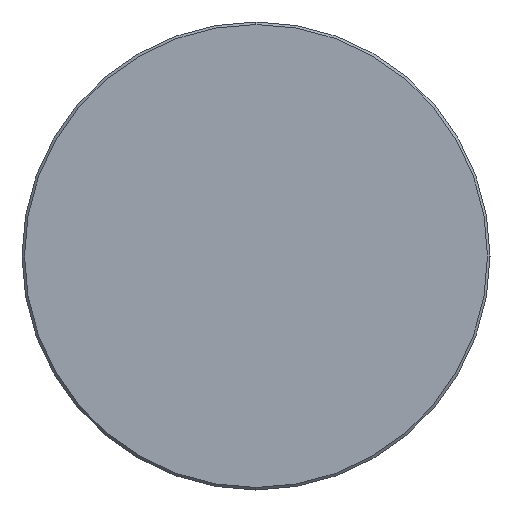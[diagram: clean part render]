
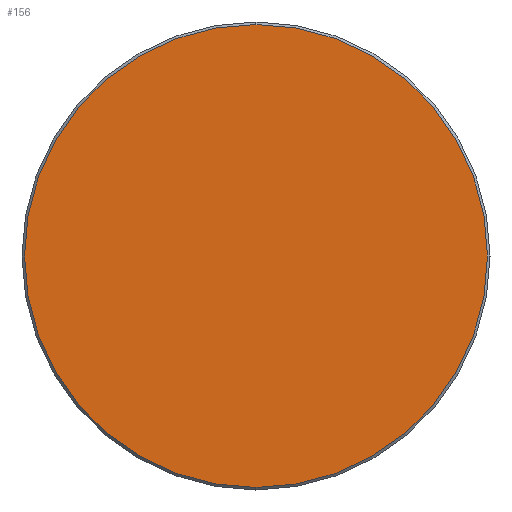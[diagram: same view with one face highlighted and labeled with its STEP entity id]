
A CAD part, left-side view. The second image highlights one B-rep face of the part: STEP entity #156.
In plain terms, the highlighted planar face has unit normal (-1, 0, 0).
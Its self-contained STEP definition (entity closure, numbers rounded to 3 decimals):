
#40 = PLANE ( 'NONE',  #661 ) ;
#51 = DIRECTION ( 'NONE',  ( 0., 0., -1. ) ) ;
#62 = AXIS2_PLACEMENT_3D ( 'NONE', #236, #868, #242 ) ;
#105 = CIRCLE ( 'NONE', #62, 27.7 ) ;
#119 = DIRECTION ( 'NONE',  ( 1., 0., 0. ) ) ;
#156 = ADVANCED_FACE ( 'NONE', ( #784 ), #40, .F. ) ;
#215 = EDGE_LOOP ( 'NONE', ( #953, #710 ) ) ;
#236 = CARTESIAN_POINT ( 'NONE',  ( 0., 0., 0. ) ) ;
#242 = DIRECTION ( 'NONE',  ( 0., 0., 1. ) ) ;
#342 = VERTEX_POINT ( 'NONE', #1009 ) ;
#436 = EDGE_CURVE ( 'NONE', #342, #641, #931, .T. ) ;
#599 = CARTESIAN_POINT ( 'NONE',  ( 0., 0., 27.7 ) ) ;
#641 = VERTEX_POINT ( 'NONE', #599 ) ;
#661 = AXIS2_PLACEMENT_3D ( 'NONE', #831, #119, #51 ) ;
#710 = ORIENTED_EDGE ( 'NONE', *, *, #845, .T. ) ;
#726 = DIRECTION ( 'NONE',  ( 0., 0., 1. ) ) ;
#765 = AXIS2_PLACEMENT_3D ( 'NONE', #801, #881, #726 ) ;
#784 = FACE_OUTER_BOUND ( 'NONE', #215, .T. ) ;
#801 = CARTESIAN_POINT ( 'NONE',  ( 0., 0., 0. ) ) ;
#831 = CARTESIAN_POINT ( 'NONE',  ( 0., 0., 0. ) ) ;
#845 = EDGE_CURVE ( 'NONE', #641, #342, #105, .T. ) ;
#868 = DIRECTION ( 'NONE',  ( -1., 0., 0. ) ) ;
#881 = DIRECTION ( 'NONE',  ( -1., 0., 0. ) ) ;
#931 = CIRCLE ( 'NONE', #765, 27.7 ) ;
#953 = ORIENTED_EDGE ( 'NONE', *, *, #436, .T. ) ;
#1009 = CARTESIAN_POINT ( 'NONE',  ( 0., 0., -27.7 ) ) ;
